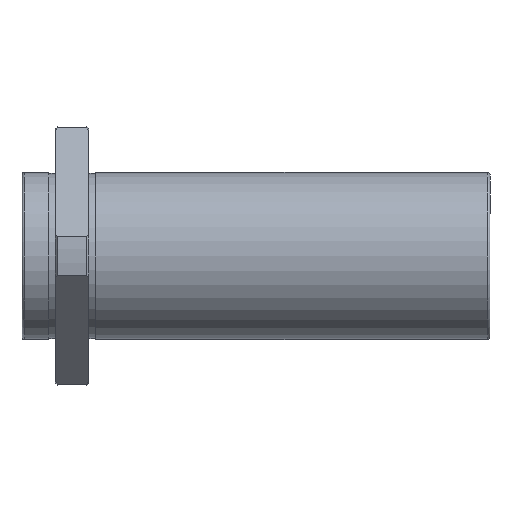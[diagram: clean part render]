
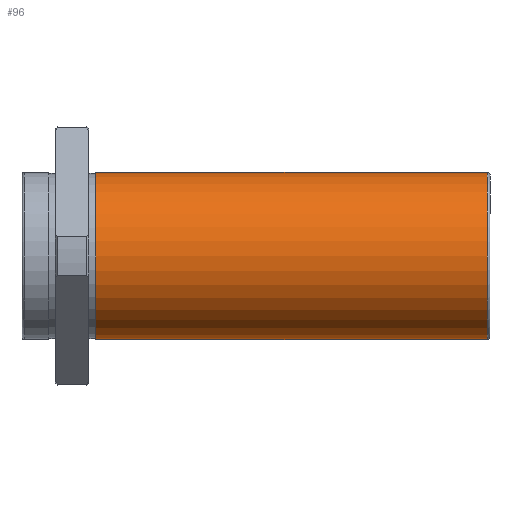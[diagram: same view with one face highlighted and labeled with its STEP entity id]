
A CAD part, front view. The second image highlights one B-rep face of the part: STEP entity #96.
In plain terms, the highlighted cylindrical face has radius 20 mm (diameter 40 mm), a full revolution.
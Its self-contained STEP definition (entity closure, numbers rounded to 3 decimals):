
#96=ADVANCED_FACE('',(#181,#182),#183,.T.);
#181=FACE_OUTER_BOUND('',#296,.T.);
#182=FACE_OUTER_BOUND('',#297,.T.);
#183=CYLINDRICAL_SURFACE('',#298,20.0);
#296=EDGE_LOOP('',(#496));
#297=EDGE_LOOP('',(#497));
#298=AXIS2_PLACEMENT_3D('',#498,#499,#500);
#496=ORIENTED_EDGE('',*,*,#684,.T.);
#497=ORIENTED_EDGE('',*,*,#659,.T.);
#498=CARTESIAN_POINT('',(96.0,0.,0.));
#499=DIRECTION('',(1.0,0.,0.));
#500=DIRECTION('',(0.,-1.0,0.));
#659=EDGE_CURVE('',#766,#766,#767,.F.);
#684=EDGE_CURVE('',#813,#813,#814,.T.);
#766=VERTEX_POINT('',#942);
#767=CIRCLE('',#943,20.0);
#813=VERTEX_POINT('',#994);
#814=CIRCLE('',#995,20.0);
#942=CARTESIAN_POINT('',(95.4,0.,-20.0));
#943=AXIS2_PLACEMENT_3D('',#1092,#1093,#1094);
#994=CARTESIAN_POINT('',(1.6,0.,-20.0));
#995=AXIS2_PLACEMENT_3D('',#1160,#1161,#1162);
#1092=CARTESIAN_POINT('',(95.4,0.,0.));
#1093=DIRECTION('',(1.0,0.,0.));
#1094=DIRECTION('',(0.,0.0,-1.0));
#1160=CARTESIAN_POINT('',(1.6,0.,0.));
#1161=DIRECTION('',(1.0,0.,0.));
#1162=DIRECTION('',(0.,0.0,-1.0));
